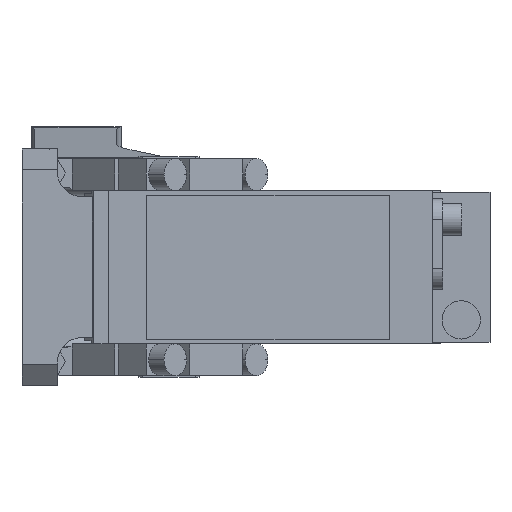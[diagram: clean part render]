
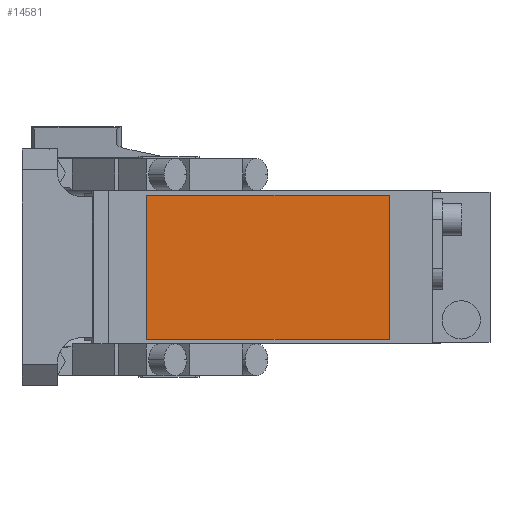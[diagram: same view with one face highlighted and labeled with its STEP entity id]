
A CAD part, front view. The second image highlights one B-rep face of the part: STEP entity #14581.
In plain terms, the highlighted planar face has unit normal (0, -1, 0).
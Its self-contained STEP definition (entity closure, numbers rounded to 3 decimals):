
#140 = VERTEX_POINT ( 'NONE', #13732 ) ;
#398 = EDGE_CURVE ( 'NONE', #140, #8230, #999, .T. ) ;
#999 = LINE ( 'NONE', #2382, #12869 ) ;
#1117 = EDGE_CURVE ( 'NONE', #2965, #140, #11571, .T. ) ;
#1158 = EDGE_CURVE ( 'NONE', #10786, #2965, #5771, .T. ) ;
#1180 = DIRECTION ( 'NONE',  ( 1., 0., 0. ) ) ;
#1323 = AXIS2_PLACEMENT_3D ( 'NONE', #2232, #4572, #3451 ) ;
#1785 = ORIENTED_EDGE ( 'NONE', *, *, #10006, .T. ) ;
#2232 = CARTESIAN_POINT ( 'NONE',  ( 0., -280.5, 0. ) ) ;
#2382 = CARTESIAN_POINT ( 'NONE',  ( 69., -280.5, 22.5 ) ) ;
#2965 = VERTEX_POINT ( 'NONE', #8829 ) ;
#3245 = ORIENTED_EDGE ( 'NONE', *, *, #1158, .T. ) ;
#3451 = DIRECTION ( 'NONE',  ( 0., 0., -1. ) ) ;
#3481 = CARTESIAN_POINT ( 'NONE',  ( -7., -280.5, -22.5 ) ) ;
#3808 = ORIENTED_EDGE ( 'NONE', *, *, #398, .T. ) ;
#4572 = DIRECTION ( 'NONE',  ( 0., -1., 0. ) ) ;
#5771 = LINE ( 'NONE', #7148, #8038 ) ;
#6194 = CARTESIAN_POINT ( 'NONE',  ( -7., -280.5, 22.5 ) ) ;
#7001 = DIRECTION ( 'NONE',  ( 0., 0., 1. ) ) ;
#7148 = CARTESIAN_POINT ( 'NONE',  ( -7., -280.5, 22.5 ) ) ;
#7530 = EDGE_LOOP ( 'NONE', ( #3245, #11947, #3808, #1785 ) ) ;
#7709 = LINE ( 'NONE', #8850, #14784 ) ;
#8038 = VECTOR ( 'NONE', #10620, 1000. ) ;
#8230 = VERTEX_POINT ( 'NONE', #13049 ) ;
#8521 = VECTOR ( 'NONE', #1180, 1000. ) ;
#8829 = CARTESIAN_POINT ( 'NONE',  ( -7., -280.5, -22.5 ) ) ;
#8850 = CARTESIAN_POINT ( 'NONE',  ( -7., -280.5, 22.5 ) ) ;
#10006 = EDGE_CURVE ( 'NONE', #8230, #10786, #7709, .T. ) ;
#10103 = PLANE ( 'NONE',  #1323 ) ;
#10620 = DIRECTION ( 'NONE',  ( 0., 0., -1. ) ) ;
#10786 = VERTEX_POINT ( 'NONE', #6194 ) ;
#11571 = LINE ( 'NONE', #3481, #8521 ) ;
#11947 = ORIENTED_EDGE ( 'NONE', *, *, #1117, .T. ) ;
#12869 = VECTOR ( 'NONE', #7001, 1000. ) ;
#13049 = CARTESIAN_POINT ( 'NONE',  ( 69., -280.5, 22.5 ) ) ;
#13712 = DIRECTION ( 'NONE',  ( -1., 0., 0. ) ) ;
#13732 = CARTESIAN_POINT ( 'NONE',  ( 69., -280.5, -22.5 ) ) ;
#13777 = FACE_OUTER_BOUND ( 'NONE', #7530, .T. ) ;
#14581 = ADVANCED_FACE ( 'NONE', ( #13777 ), #10103, .T. ) ;
#14784 = VECTOR ( 'NONE', #13712, 1000. ) ;
